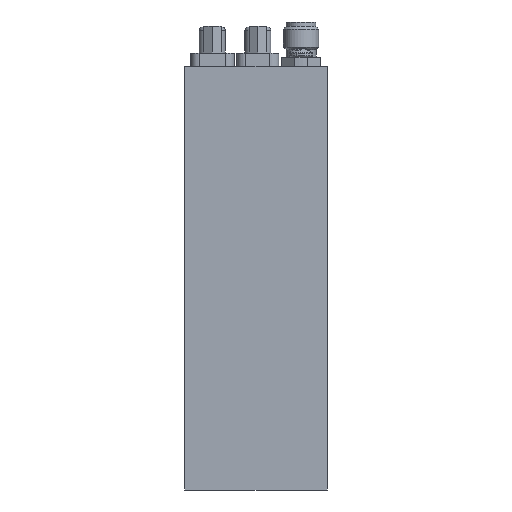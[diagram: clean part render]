
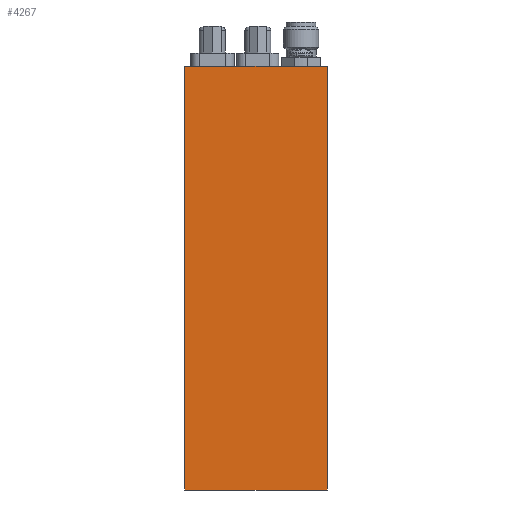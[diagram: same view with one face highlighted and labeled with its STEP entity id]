
A CAD part, left-side view. The second image highlights one B-rep face of the part: STEP entity #4267.
In plain terms, the highlighted planar face has unit normal (-1, 0, 0).
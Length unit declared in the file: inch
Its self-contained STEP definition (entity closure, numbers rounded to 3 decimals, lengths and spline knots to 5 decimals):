
#1347 = LINE ( 'NONE', #11044, #3789 ) ;
#3430 = VERTEX_POINT ( 'NONE', #15922 ) ;
#3789 = VECTOR ( 'NONE', #8631, 39.37008 ) ;
#4267 = ADVANCED_FACE ( 'NONE', ( #16523 ), #21126, .F. ) ;
#4376 = LINE ( 'NONE', #8816, #13123 ) ;
#4470 = EDGE_LOOP ( 'NONE', ( #14852, #12685, #23659, #15735 ) ) ;
#4741 = DIRECTION ( 'NONE',  ( 1., 0., 0. ) ) ;
#6739 = AXIS2_PLACEMENT_3D ( 'NONE', #28915, #4741, #7093 ) ;
#7093 = DIRECTION ( 'NONE',  ( 0., 0., -1. ) ) ;
#7413 = DIRECTION ( 'NONE',  ( 0., 0., 1. ) ) ;
#8313 = VECTOR ( 'NONE', #7413, 39.37008 ) ;
#8631 = DIRECTION ( 'NONE',  ( 0., 0., 1. ) ) ;
#8816 = CARTESIAN_POINT ( 'NONE',  ( 0.32271, 2.27925, 4.2139 ) ) ;
#9824 = VERTEX_POINT ( 'NONE', #12343 ) ;
#11044 = CARTESIAN_POINT ( 'NONE',  ( 0.32271, 1.26725, 1.2139 ) ) ;
#11584 = LINE ( 'NONE', #29225, #8313 ) ;
#12280 = LINE ( 'NONE', #17183, #14633 ) ;
#12343 = CARTESIAN_POINT ( 'NONE',  ( 0.32271, 2.27925, 4.2139 ) ) ;
#12685 = ORIENTED_EDGE ( 'NONE', *, *, #26596, .F. ) ;
#13123 = VECTOR ( 'NONE', #28077, 39.37008 ) ;
#14633 = VECTOR ( 'NONE', #27041, 39.37008 ) ;
#14852 = ORIENTED_EDGE ( 'NONE', *, *, #18173, .T. ) ;
#15735 = ORIENTED_EDGE ( 'NONE', *, *, #25024, .T. ) ;
#15922 = CARTESIAN_POINT ( 'NONE',  ( 0.32271, 2.27925, 1.2139 ) ) ;
#16523 = FACE_OUTER_BOUND ( 'NONE', #4470, .T. ) ;
#17183 = CARTESIAN_POINT ( 'NONE',  ( 0.32271, 2.27925, 1.2139 ) ) ;
#18173 = EDGE_CURVE ( 'NONE', #19406, #30541, #1347, .T. ) ;
#18370 = EDGE_CURVE ( 'NONE', #3430, #9824, #11584, .T. ) ;
#19406 = VERTEX_POINT ( 'NONE', #25039 ) ;
#21126 = PLANE ( 'NONE',  #6739 ) ;
#23659 = ORIENTED_EDGE ( 'NONE', *, *, #18370, .F. ) ;
#23898 = CARTESIAN_POINT ( 'NONE',  ( 0.32271, 1.26725, 4.2139 ) ) ;
#25024 = EDGE_CURVE ( 'NONE', #3430, #19406, #12280, .T. ) ;
#25039 = CARTESIAN_POINT ( 'NONE',  ( 0.32271, 1.26725, 1.2139 ) ) ;
#26596 = EDGE_CURVE ( 'NONE', #9824, #30541, #4376, .T. ) ;
#27041 = DIRECTION ( 'NONE',  ( 0., -1., 0. ) ) ;
#28077 = DIRECTION ( 'NONE',  ( 0., -1., 0. ) ) ;
#28915 = CARTESIAN_POINT ( 'NONE',  ( 0.32271, 2.27925, 1.2139 ) ) ;
#29225 = CARTESIAN_POINT ( 'NONE',  ( 0.32271, 2.27925, 1.2139 ) ) ;
#30541 = VERTEX_POINT ( 'NONE', #23898 ) ;
